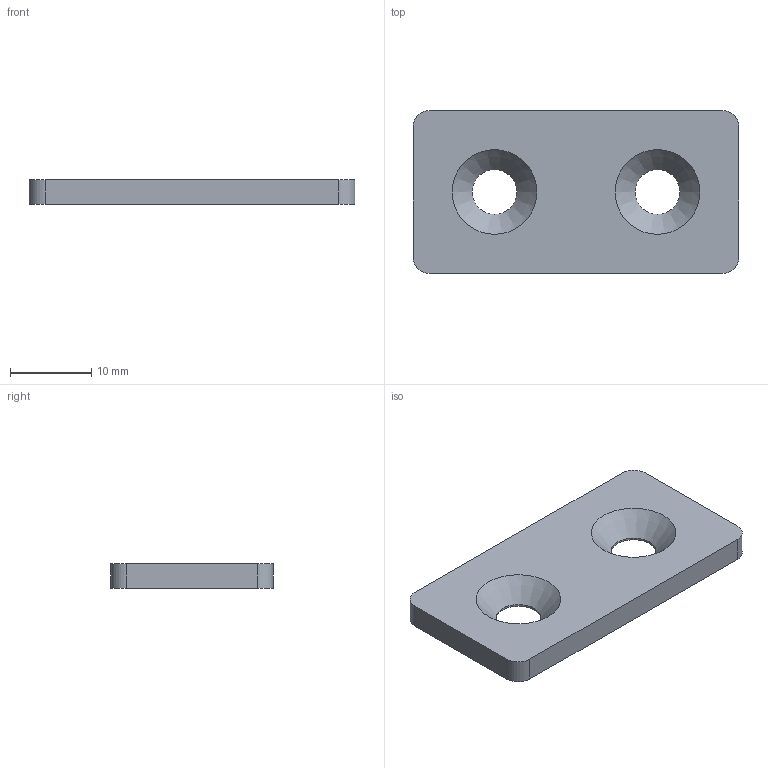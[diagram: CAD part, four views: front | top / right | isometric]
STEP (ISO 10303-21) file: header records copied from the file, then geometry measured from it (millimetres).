
FILE_DESCRIPTION(/* description */ ('STEP AP203'),/* implementation_level */ '2;1');
FILE_NAME(/* name */ '093V2040Shigh',/* time_stamp */ '2026-07-15T16:28:44+02:00',/* author */ ('License CC BY-ND 4.0'),/* organization */ ('CADENAS'),/* preprocessor_version */ 'ST-DEVELOPER v20',/* originating_system */ 'PARTsolutions',/* authorisation */ ' ');
FILE_SCHEMA (('CONFIG_CONTROL_DESIGN'));
Length unit declared in the file: millimetre
Products named in the file (1): 093V2040Shigh
Bounding box: 40 x 20 x 3 mm (x, y, z)
Volume: 2096.2 mm3; surface area: 1918 mm2
Topology: 1 solids, 1 shells, 14 faces, 34 edges, 22 vertices
Faces by surface type: cylinder 6, plane 6, cone 2
Full cylindrical faces by diameter (mm): 5.5 x2
Entity records: 425 total; most frequent: DIRECTION 74, CARTESIAN_POINT 67, ORIENTED_EDGE 60, EDGE_CURVE 30, AXIS2_PLACEMENT_3D 29, VERTEX_POINT 22, EDGE_LOOP 22, FACE_BOUND 22
